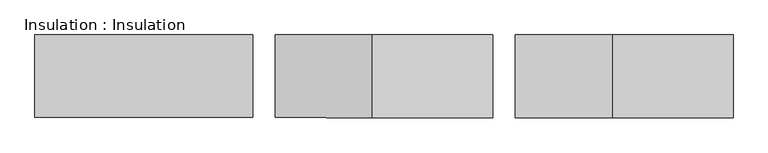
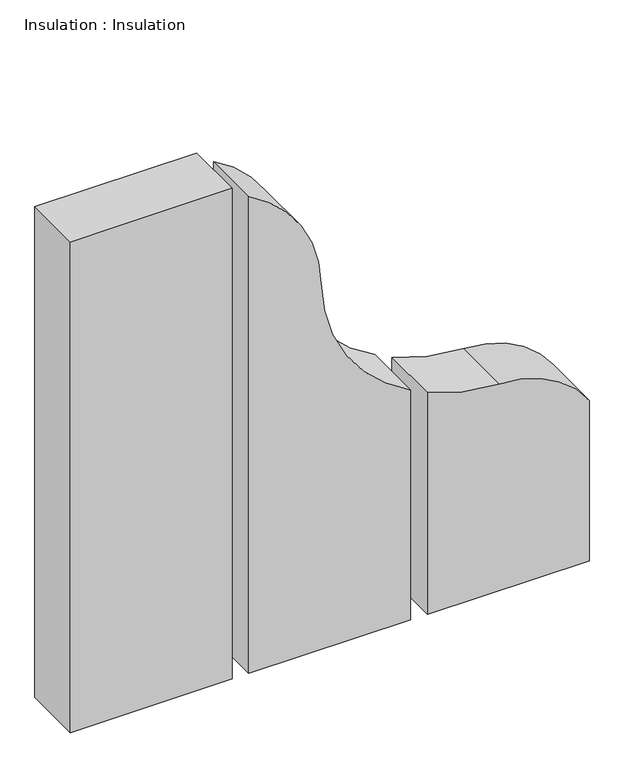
"""IFC4 building model written with IfcOpenShell, lengths in millimetres: proxy geometry, Insulation : Insulation."""

from ifc_helpers import new_model, si_unit, point, frame, frame_2d, origin, place, context, project, spatial, polyline, circle_curve, trimmed, segment, composite_curve, outline, extrude, source, transform, mapped, element, save


def insulation_insulation_886ea66a(model_context):
    return source(origin(), model_context, "Body", "SweptSolid", [
        extrude(outline(polyline([(-4694.0179718, 34285.6421435), (-5062.3179718, 34285.6421435), (-5062.3179718, 34425.3421435), (-4694.0179718, 34425.3421435), (-4694.0179718, 34285.6421435)])), frame((0.0, 0.0, 38.1), z_axis=(0.0, 0.0, 1.0), x_axis=(1.0, 0.0, 0.0)), (0.0, 0.0, 1.0), 1181.1),
        extrude(outline(composite_curve([segment(polyline([(38.1, -4655.9179718), (38.1, -4287.6179718), (591.8706469, -4287.6179718)]), True, "CONTINUOUS"), segment(trimmed(circle_curve(frame_2d((925.1337293, -4116.855762)), 374.4649709), [point((591.8706469, -4287.6179718))], [point((918.4023164, -4491.2602258))], True, "CARTESIAN"), True, "CONTINUOUS"), segment(trimmed(circle_curve(frame_2d((912.871688, -4798.8764748)), 307.6659626), [point((918.4023164, -4491.2602258))], [point((1185.3073886, -4655.9179718))], False, "CARTESIAN"), True, "CONTINUOUS"), segment(polyline([(1185.3073886, -4655.9179718), (38.1, -4655.9179718)]), True, "CONTINUOUS")], self_intersect=False)), frame((0.0, 34285.6421435, 0.0), z_axis=(0.0, 1.0, 0.0), x_axis=(0.0, 0.0, 1.0)), (0.0, 0.0, 1.0), 139.7),
        extrude(outline(composite_curve([segment(polyline([(38.1, -4249.5179718), (38.1, -3881.2179718), (424.2455858, -3881.2179718)]), True, "CONTINUOUS"), segment(trimmed(circle_curve(frame_2d((286.9857554, -4088.4282857)), 248.5485369), [point((424.2455858, -3881.2179718))], [point((535.510358, -4084.9790677))], False, "CARTESIAN"), True, "CONTINUOUS"), segment(trimmed(circle_curve(frame_2d((948.5891228, -4079.2460388)), 413.1185466), [point((535.510358, -4084.9790677))], [point((572.1925203, -4249.5179718))], True, "CARTESIAN"), True, "CONTINUOUS"), segment(polyline([(572.1925203, -4249.5179718), (38.1, -4249.5179718)]), True, "CONTINUOUS")], self_intersect=False)), frame((0.0, 34285.6421435, 0.0), z_axis=(0.0, 1.0, 0.0), x_axis=(0.0, 0.0, 1.0)), (0.0, 0.0, 1.0), 139.7),
    ])


if __name__ == "__main__":
    model = new_model("IFC4")
    model_context = context("Model", 3, world=origin())
    ifc_project = project(units=[si_unit("LENGTHUNIT", "METRE", prefix="MILLI")], contexts=[model_context])
    site = spatial("IfcSite", under=ifc_project)
    building = spatial("IfcBuilding", under=site)
    placement = place(None, origin())
    insulation_insulation_shape = insulation_insulation_886ea66a(model_context)
    element("IfcBuildingElementProxy", 1, Name="Insulation : Insulation", ObjectType="Insulation : Insulation", at=placement, inside=building, context=model_context, shape_type="MappedRepresentation", body=[
        mapped(insulation_insulation_shape, transform((0.0, 0.0, 0.0), x_axis=(1.0, 0.0, 0.0), y_axis=(0.0, 1.0, 0.0), z_axis=(0.0, 0.0, 1.0))),
    ])
    save(model, "model.ifc")
